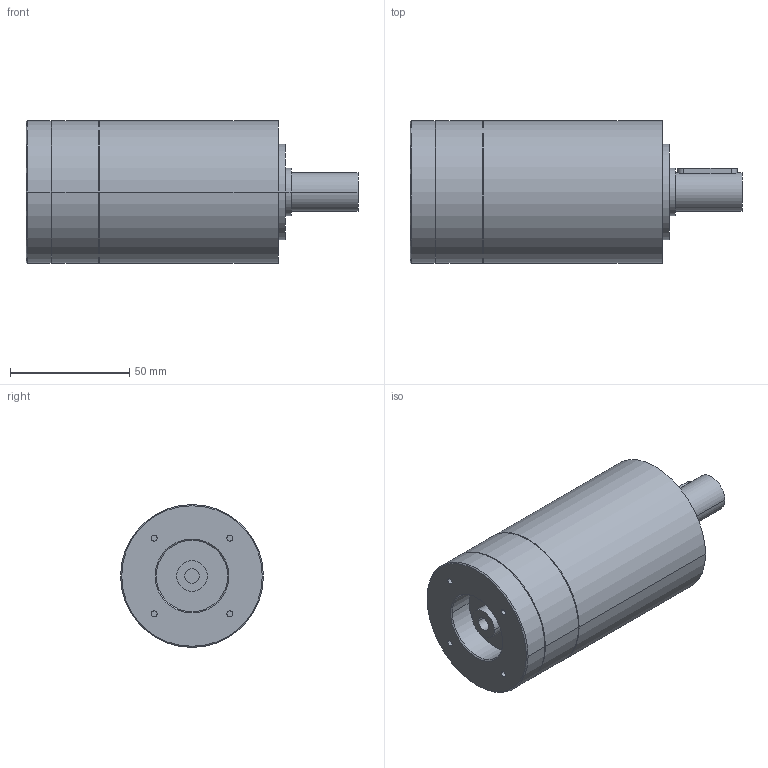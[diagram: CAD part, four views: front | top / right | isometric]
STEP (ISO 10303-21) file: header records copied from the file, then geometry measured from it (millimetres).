
FILE_DESCRIPTION(('CoCreate Modeling STEP Export'),'2;1');
FILE_NAME('GPR75_ig-9-12-16-20-24-30-36_16_B14_6_P29.stp','2014-08-25T16:04:57',(''),(''),'CoCreate Modeling STEP processor for AP214 (Solid Model)','CoCreate Modeling 16.00C 25-Feb-2009 (C) Parametric Technology GmbH','');
FILE_SCHEMA(('AUTOMOTIVE_DESIGN { 1 0 10303 214 1 1 1 1 }'));
Length unit declared in the file: millimetre
Products named in the file (2): GPR75_ig-9-12-16-20-24-30-36_16_B14_6_P29
Assembly tree (1 placements, depth 2):
  GPR75_ig-9-12-16-20-24-30-36_16_B14_6_P29
    GPR75_ig-9-12-16-20-24-30-36_16_B14_6_P29
Bounding box: 139.4 x 60 x 60 mm (x, y, z)
Volume: 301524.4 mm3; surface area: 30516.8 mm2
Topology: 1 solids, 1 shells, 69 faces, 173 edges, 121 vertices
Faces by surface type: cylinder 38, plane 21, cone 10
Entity records: 1751 total; most frequent: ORIENTED_EDGE 342, CARTESIAN_POINT 325, DIRECTION 226, EDGE_CURVE 171, VERTEX_POINT 121, AXIS2_PLACEMENT_3D 86, EDGE_LOOP 86, FACE_OUTER_BOUND 69
